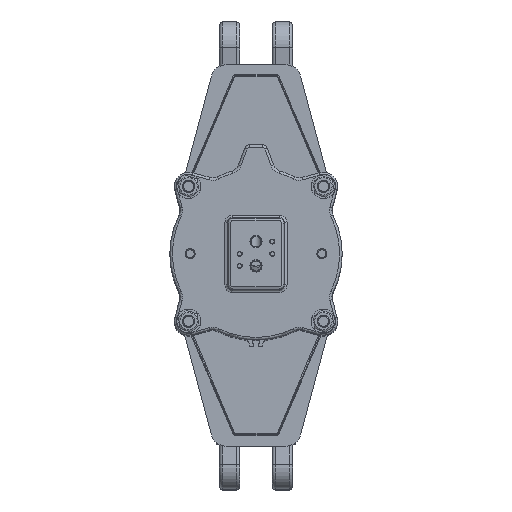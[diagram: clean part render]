
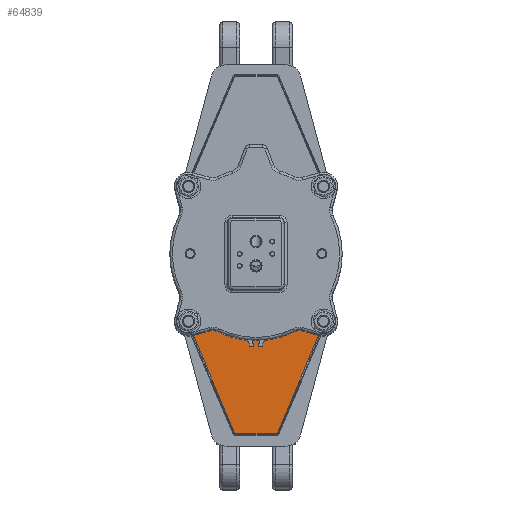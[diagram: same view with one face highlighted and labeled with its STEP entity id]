
A CAD part, top view. The second image highlights one B-rep face of the part: STEP entity #64839.
In plain terms, the highlighted planar face has unit normal (0, 0, 1).
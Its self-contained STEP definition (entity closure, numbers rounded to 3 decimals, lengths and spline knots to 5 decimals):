
#5299=LINE('',#103428,#9689);
#5300=LINE('',#103431,#9690);
#5305=LINE('',#103441,#9695);
#8515=LINE('',#126531,#12905);
#8667=LINE('',#127090,#13057);
#8670=LINE('',#127095,#13060);
#8671=LINE('',#127097,#13061);
#8673=LINE('',#127102,#13063);
#8675=LINE('',#127105,#13065);
#8847=LINE('',#127535,#13237);
#9689=VECTOR('',#75554,0.00558);
#9690=VECTOR('',#75557,0.121);
#9695=VECTOR('',#75564,0.00558);
#12905=VECTOR('',#86330,0.042);
#13057=VECTOR('',#86774,0.00157);
#13060=VECTOR('',#86779,0.0076);
#13061=VECTOR('',#86782,0.11831);
#13063=VECTOR('',#86786,0.0076);
#13065=VECTOR('',#86790,0.11831);
#13237=VECTOR('',#87352,0.00157);
#17161=FACE_OUTER_BOUND('',#21251,.T.);
#21251=EDGE_LOOP('',(#58026,#58027,#58028,#58029,#58030,#58031,#58032,#58033,
#58034,#58035));
#25962=VERTEX_POINT('',#103420);
#25965=VERTEX_POINT('',#103426);
#25966=VERTEX_POINT('',#103430);
#25970=VERTEX_POINT('',#103440);
#29951=VERTEX_POINT('',#126521);
#29952=VERTEX_POINT('',#126526);
#30213=VERTEX_POINT('',#127089);
#30214=VERTEX_POINT('',#127093);
#30215=VERTEX_POINT('',#127099);
#30216=VERTEX_POINT('',#127101);
#32979=EDGE_CURVE('',#25965,#25962,#5299,.T.);
#32980=EDGE_CURVE('',#25966,#25965,#5300,.T.);
#32985=EDGE_CURVE('',#25970,#25966,#5305,.T.);
#39210=EDGE_CURVE('',#29952,#29951,#8515,.T.);
#39490=EDGE_CURVE('',#30213,#25962,#8667,.T.);
#39493=EDGE_CURVE('',#30214,#30213,#8670,.T.);
#39494=EDGE_CURVE('',#30214,#29951,#8671,.T.);
#39496=EDGE_CURVE('',#30216,#30215,#8673,.T.);
#39498=EDGE_CURVE('',#29952,#30215,#8675,.T.);
#39716=EDGE_CURVE('',#25970,#30216,#8847,.T.);
#58026=ORIENTED_EDGE('',*,*,#32979,.F.);
#58027=ORIENTED_EDGE('',*,*,#32980,.F.);
#58028=ORIENTED_EDGE('',*,*,#32985,.F.);
#58029=ORIENTED_EDGE('',*,*,#39716,.T.);
#58030=ORIENTED_EDGE('',*,*,#39496,.T.);
#58031=ORIENTED_EDGE('',*,*,#39498,.F.);
#58032=ORIENTED_EDGE('',*,*,#39210,.T.);
#58033=ORIENTED_EDGE('',*,*,#39494,.F.);
#58034=ORIENTED_EDGE('',*,*,#39493,.T.);
#58035=ORIENTED_EDGE('',*,*,#39490,.T.);
#61312=PLANE('',#70935);
#64839=ADVANCED_FACE('',(#17161),#61312,.T.);
#70935=AXIS2_PLACEMENT_3D('',#127536,#87353,#87354);
#75554=DIRECTION('',(0.882,0.471,0.));
#75557=DIRECTION('',(1.,0.,0.));
#75564=DIRECTION('',(0.882,-0.471,0.));
#86330=DIRECTION('',(1.,0.,0.));
#86774=DIRECTION('',(-1.,0.,0.));
#86779=DIRECTION('',(0.,1.,0.));
#86782=DIRECTION('',(-0.389,-0.921,0.));
#86786=DIRECTION('',(0.,-1.,0.));
#86790=DIRECTION('',(-0.389,0.921,0.));
#87352=DIRECTION('',(-1.,0.,0.));
#87353=DIRECTION('center_axis',(0.,0.,
1.));
#87354=DIRECTION('ref_axis',(1.,0.,0.));
#103420=CARTESIAN_POINT('',(0.06543,-0.05937,0.6754));
#103426=CARTESIAN_POINT('',(0.0605,-0.062,0.6754));
#103428=CARTESIAN_POINT('',(0.0605,-0.062,0.6754));
#103430=CARTESIAN_POINT('',(-0.0605,-0.062,0.6754));
#103431=CARTESIAN_POINT('',(-0.0605,-0.062,0.6754));
#103440=CARTESIAN_POINT('',(-0.06543,-0.05937,0.6754));
#103441=CARTESIAN_POINT('',(-0.06543,-0.05937,0.6754));
#126521=CARTESIAN_POINT('',(0.021,-0.17597,0.6754));
#126526=CARTESIAN_POINT('',(-0.021,-0.17597,0.6754));
#126531=CARTESIAN_POINT('',(-0.021,-0.17597,0.6754));
#127089=CARTESIAN_POINT('',(0.067,-0.05937,0.6754));
#127090=CARTESIAN_POINT('',(0.067,-0.05937,0.6754));
#127093=CARTESIAN_POINT('',(0.067,-0.06697,0.6754));
#127095=CARTESIAN_POINT('',(0.067,-0.06697,0.6754));
#127097=CARTESIAN_POINT('',(0.067,-0.06697,0.6754));
#127099=CARTESIAN_POINT('',(-0.067,-0.06697,0.6754));
#127101=CARTESIAN_POINT('',(-0.067,-0.05937,0.6754));
#127102=CARTESIAN_POINT('',(-0.067,-0.05937,0.6754));
#127105=CARTESIAN_POINT('',(-0.021,-0.17597,0.6754));
#127535=CARTESIAN_POINT('',(-0.06543,-0.05937,0.6754));
#127536=CARTESIAN_POINT('Origin',(0.,-0.11846,
0.6754));
